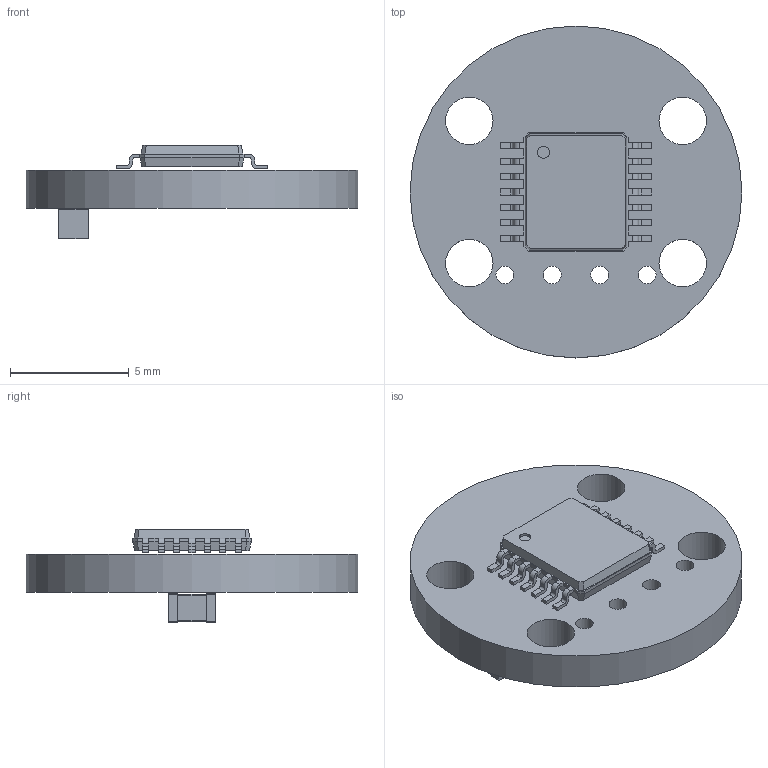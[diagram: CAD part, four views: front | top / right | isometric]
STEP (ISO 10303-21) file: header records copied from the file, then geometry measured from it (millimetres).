
FILE_DESCRIPTION(('KiCad electronic assembly'),'2;1');
FILE_NAME('A1335_Encodeur.step','2023-12-04T13:01:44',('Pcbnew'),( 'Kicad'),'Open CASCADE STEP processor 7.7','KiCad to STEP converter' ,'Unknown');
FILE_SCHEMA(('AUTOMOTIVE_DESIGN { 1 0 10303 214 1 1 1 1 }'));
Length unit declared in the file: millimetre
Products named in the file (6): A1335_Encodeur 1; TSSOP-14_4.4x5mm_P0.65mm; SOLID; C_0805_2012Metric; A1335_Encodeur PCB
Assembly tree (5 placements, depth 3):
  A1335_Encodeur 1
    TSSOP-14_4.4x5mm_P0.65mm
      SOLID
    C_0805_2012Metric
      SOLID
    A1335_Encodeur PCB
Bounding box: 14 x 14 x 3.95 mm (x, y, z)
Volume: 245.8 mm3; surface area: 490.7 mm2
Topology: 3 solids, 3 shells, 285 faces, 748 edges, 472 vertices
Faces by surface type: plane 169, cylinder 78, bspline 38
Full cylindrical faces by diameter (mm): 0.5 x1, 0.75 x4, 2 x4, 14 x1
Entity records: 20526 total; most frequent: CARTESIAN_POINT 3643, DIRECTION 2724, LINE 1818, VECTOR 1818, ORIENTED_EDGE 1496, PCURVE 1496, DEFINITIONAL_REPRESENTATION 1496, EDGE_CURVE 748
